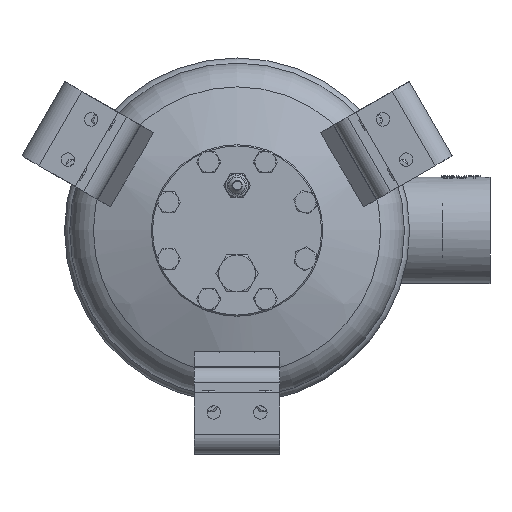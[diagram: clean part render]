
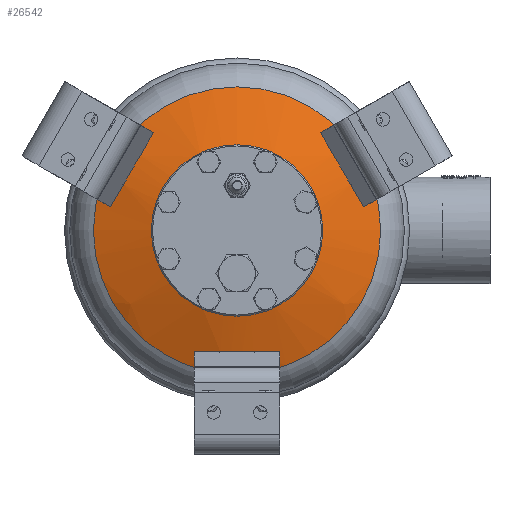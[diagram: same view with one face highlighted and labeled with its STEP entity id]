
A CAD part, front view. The second image highlights one B-rep face of the part: STEP entity #26542.
In plain terms, the highlighted spherical face has radius 279 mm.
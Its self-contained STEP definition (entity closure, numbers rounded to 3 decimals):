
#511=SPHERICAL_SURFACE('',#28694,279.);
#4857=FACE_BOUND('',#9196,.T.);
#4858=FACE_BOUND('',#9197,.T.);
#4859=FACE_BOUND('',#9198,.T.);
#4860=FACE_BOUND('',#9199,.T.);
#7378=FACE_OUTER_BOUND('',#9195,.T.);
#9195=EDGE_LOOP('',(#23786));
#9196=EDGE_LOOP('',(#23787));
#9197=EDGE_LOOP('',(#23788,#23789,#23790,#23791));
#9198=EDGE_LOOP('',(#23792,#23793,#23794,#23795));
#9199=EDGE_LOOP('',(#23796,#23797,#23798,#23799));
#9795=CIRCLE('',#28008,57.868);
#9968=CIRCLE('',#28444,14.846);
#9969=CIRCLE('',#28446,14.846);
#9970=CIRCLE('',#28448,278.939);
#9973=CIRCLE('',#28453,278.991);
#10007=CIRCLE('',#28541,14.846);
#10008=CIRCLE('',#28543,14.846);
#10009=CIRCLE('',#28545,278.939);
#10012=CIRCLE('',#28550,278.991);
#10056=CIRCLE('',#28665,14.846);
#10057=CIRCLE('',#28667,14.846);
#10058=CIRCLE('',#28669,278.939);
#10061=CIRCLE('',#28674,278.991);
#10069=CIRCLE('',#28693,117.235);
#12008=VERTEX_POINT('',#52312);
#12363=VERTEX_POINT('',#53785);
#12364=VERTEX_POINT('',#53786);
#12367=VERTEX_POINT('',#53794);
#12368=VERTEX_POINT('',#53795);
#12458=VERTEX_POINT('',#54127);
#12459=VERTEX_POINT('',#54128);
#12462=VERTEX_POINT('',#54136);
#12463=VERTEX_POINT('',#54137);
#12575=VERTEX_POINT('',#54566);
#12576=VERTEX_POINT('',#54567);
#12579=VERTEX_POINT('',#54575);
#12580=VERTEX_POINT('',#54576);
#12600=VERTEX_POINT('',#54645);
#15510=EDGE_CURVE('',#12008,#12008,#9795,.T.);
#16029=EDGE_CURVE('',#12363,#12364,#9968,.T.);
#16033=EDGE_CURVE('',#12367,#12368,#9969,.T.);
#16037=EDGE_CURVE('',#12364,#12367,#9970,.T.);
#16044=EDGE_CURVE('',#12368,#12363,#9973,.T.);
#16170=EDGE_CURVE('',#12458,#12459,#10007,.T.);
#16174=EDGE_CURVE('',#12462,#12463,#10008,.T.);
#16178=EDGE_CURVE('',#12459,#12462,#10009,.T.);
#16185=EDGE_CURVE('',#12463,#12458,#10012,.T.);
#16345=EDGE_CURVE('',#12575,#12576,#10056,.T.);
#16349=EDGE_CURVE('',#12579,#12580,#10057,.T.);
#16353=EDGE_CURVE('',#12576,#12579,#10058,.T.);
#16360=EDGE_CURVE('',#12580,#12575,#10061,.T.);
#16384=EDGE_CURVE('',#12600,#12600,#10069,.T.);
#23786=ORIENTED_EDGE('',*,*,#16384,.T.);
#23787=ORIENTED_EDGE('',*,*,#15510,.T.);
#23788=ORIENTED_EDGE('',*,*,#16037,.T.);
#23789=ORIENTED_EDGE('',*,*,#16033,.T.);
#23790=ORIENTED_EDGE('',*,*,#16044,.T.);
#23791=ORIENTED_EDGE('',*,*,#16029,.T.);
#23792=ORIENTED_EDGE('',*,*,#16178,.T.);
#23793=ORIENTED_EDGE('',*,*,#16174,.T.);
#23794=ORIENTED_EDGE('',*,*,#16185,.T.);
#23795=ORIENTED_EDGE('',*,*,#16170,.T.);
#23796=ORIENTED_EDGE('',*,*,#16353,.T.);
#23797=ORIENTED_EDGE('',*,*,#16349,.T.);
#23798=ORIENTED_EDGE('',*,*,#16360,.T.);
#23799=ORIENTED_EDGE('',*,*,#16345,.T.);
#26542=ADVANCED_FACE('',(#7378,#4857,#4858,#4859,#4860),#511,.T.);
#28008=AXIS2_PLACEMENT_3D('',#52313,#32797,#32798);
#28444=AXIS2_PLACEMENT_3D('',#53787,#33847,#33848);
#28446=AXIS2_PLACEMENT_3D('',#53796,#33854,#33855);
#28448=AXIS2_PLACEMENT_3D('',#53803,#33861,#33862);
#28453=AXIS2_PLACEMENT_3D('',#53816,#33875,#33876);
#28541=AXIS2_PLACEMENT_3D('',#54129,#34119,#34120);
#28543=AXIS2_PLACEMENT_3D('',#54138,#34126,#34127);
#28545=AXIS2_PLACEMENT_3D('',#54145,#34133,#34134);
#28550=AXIS2_PLACEMENT_3D('',#54158,#34147,#34148);
#28665=AXIS2_PLACEMENT_3D('',#54568,#34457,#34458);
#28667=AXIS2_PLACEMENT_3D('',#54577,#34464,#34465);
#28669=AXIS2_PLACEMENT_3D('',#54584,#34471,#34472);
#28674=AXIS2_PLACEMENT_3D('',#54597,#34485,#34486);
#28693=AXIS2_PLACEMENT_3D('',#54646,#34539,#34540);
#28694=AXIS2_PLACEMENT_3D('',#54647,#34541,#34542);
#32797=DIRECTION('center_axis',(0.,1.,0.));
#32798=DIRECTION('ref_axis',(0.,0.,1.));
#33847=DIRECTION('center_axis',(-0.324,0.927,-0.187));
#33848=DIRECTION('ref_axis',(0.,-0.198,-0.98));
#33854=DIRECTION('center_axis',(-0.324,0.927,-0.187));
#33855=DIRECTION('ref_axis',(0.,-0.198,-0.98));
#33861=DIRECTION('center_axis',(-0.803,-0.375,-0.464));
#33862=DIRECTION('ref_axis',(0.,-0.778,0.629));
#33875=DIRECTION('center_axis',(0.803,0.375,0.464));
#33876=DIRECTION('ref_axis',(0.,0.778,-0.629));
#34119=DIRECTION('center_axis',(0.324,0.927,-0.187));
#34120=DIRECTION('ref_axis',(0.,-0.198,-0.98));
#34126=DIRECTION('center_axis',(0.324,0.927,-0.187));
#34127=DIRECTION('ref_axis',(0.,-0.198,-0.98));
#34133=DIRECTION('center_axis',(0.803,-0.375,-0.464));
#34134=DIRECTION('ref_axis',(0.,-0.778,0.629));
#34147=DIRECTION('center_axis',(-0.803,0.375,0.464));
#34148=DIRECTION('ref_axis',(0.,0.778,-0.629));
#34457=DIRECTION('center_axis',(0.,0.927,
0.375));
#34458=DIRECTION('ref_axis',(0.,0.375,-0.927));
#34464=DIRECTION('center_axis',(0.,0.927,
0.375));
#34465=DIRECTION('ref_axis',(0.,0.375,-0.927));
#34471=DIRECTION('center_axis',(0.,-0.375,
0.927));
#34472=DIRECTION('ref_axis',(0.,0.927,0.375));
#34485=DIRECTION('center_axis',(0.,0.375,
-0.927));
#34486=DIRECTION('ref_axis',(0.,-0.927,-0.375));
#34539=DIRECTION('center_axis',(0.,-1.,0.));
#34540=DIRECTION('ref_axis',(-1.,0.,0.));
#34541=DIRECTION('center_axis',(0.,0.,-1.));
#34542=DIRECTION('ref_axis',(-1.,0.,0.));
#52312=CARTESIAN_POINT('',(-57.868,-81.126,0.));
#52313=CARTESIAN_POINT('Origin',(0.,-81.126,0.));
#53785=CARTESIAN_POINT('',(99.48,-65.693,40.479));
#53786=CARTESIAN_POINT('',(92.543,-68.69,37.658));
#53787=CARTESIAN_POINT('Origin',(90.385,-66.511,52.184));
#53794=CARTESIAN_POINT('',(78.885,-68.69,61.316));
#53795=CARTESIAN_POINT('',(84.796,-65.693,65.913));
#53796=CARTESIAN_POINT('Origin',(90.385,-66.511,52.184));
#53803=CARTESIAN_POINT('Origin',(-4.671,189.628,-2.697));
#53816=CARTESIAN_POINT('Origin',(1.753,192.625,1.012));
#54127=CARTESIAN_POINT('',(-84.796,-65.693,65.913));
#54128=CARTESIAN_POINT('',(-78.885,-68.69,61.316));
#54129=CARTESIAN_POINT('Origin',(-90.385,-66.511,52.184));
#54136=CARTESIAN_POINT('',(-92.543,-68.69,37.658));
#54137=CARTESIAN_POINT('',(-99.48,-65.693,40.479));
#54138=CARTESIAN_POINT('Origin',(-90.385,-66.511,52.184));
#54145=CARTESIAN_POINT('Origin',(4.671,189.628,-2.697));
#54158=CARTESIAN_POINT('Origin',(-1.753,192.625,1.012));
#54566=CARTESIAN_POINT('',(-14.684,-65.693,-106.391));
#54567=CARTESIAN_POINT('',(-13.658,-68.69,-98.974));
#54568=CARTESIAN_POINT('Origin',(0.,-66.511,
-104.367));
#54575=CARTESIAN_POINT('',(13.658,-68.69,-98.974));
#54576=CARTESIAN_POINT('',(14.684,-65.693,-106.391));
#54577=CARTESIAN_POINT('Origin',(0.,-66.511,
-104.367));
#54584=CARTESIAN_POINT('Origin',(0.,189.628,
5.393));
#54597=CARTESIAN_POINT('Origin',(0.,192.625,
-2.024));
#54645=CARTESIAN_POINT('',(-117.235,-61.367,0.));
#54646=CARTESIAN_POINT('Origin',(0.,-61.367,
0.));
#54647=CARTESIAN_POINT('Origin',(0.,191.807,
0.));
